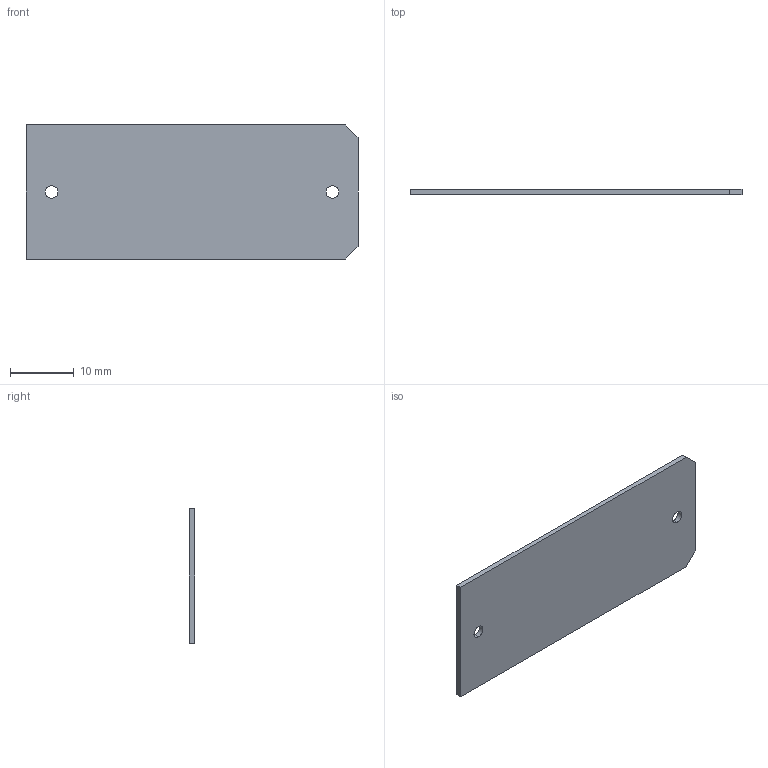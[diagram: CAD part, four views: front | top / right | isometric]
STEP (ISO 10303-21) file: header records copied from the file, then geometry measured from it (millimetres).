
FILE_DESCRIPTION (( 'STEP AP214' ), '1' );
FILE_NAME ('LBRX-00-040-3-POLARIZER-H.STEP', '2021-11-05T05:14:40', ( '' ), ( '' ), 'SwSTEP 2.0', 'SolidWorks 2021', '' );
FILE_SCHEMA (( 'AUTOMOTIVE_DESIGN' ));
Length unit declared in the file: millimetre
Products named in the file (1): LBRX-00-040-3-POLARIZER-H
Bounding box: 52 x 0.8 x 21 mm (x, y, z)
Volume: 865.4 mm3; surface area: 2288.4 mm2
Topology: 1 solids, 1 shells, 12 faces, 30 edges, 20 vertices
Faces by surface type: plane 8, cylinder 4
Entity records: 404 total; most frequent: DIRECTION 64, CARTESIAN_POINT 63, ORIENTED_EDGE 60, EDGE_CURVE 30, VECTOR 22, LINE 22, AXIS2_PLACEMENT_3D 21, VERTEX_POINT 20
